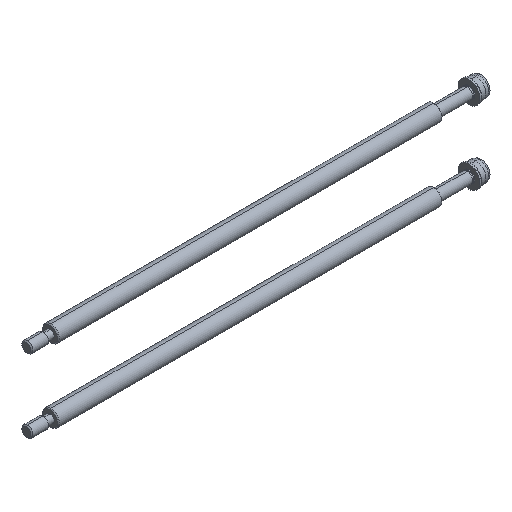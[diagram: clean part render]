
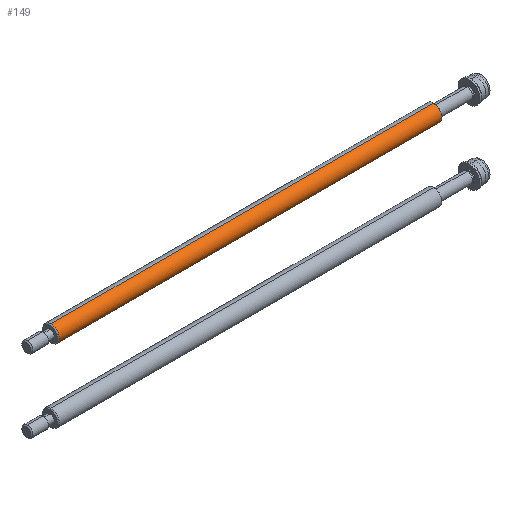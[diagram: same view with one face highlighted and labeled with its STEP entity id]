
A CAD part, isometric view. The second image highlights one B-rep face of the part: STEP entity #149.
In plain terms, the highlighted cylindrical face has radius 2.25 mm (diameter 4.5 mm), a partial arc.
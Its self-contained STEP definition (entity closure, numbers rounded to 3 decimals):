
#149=ADVANCED_FACE('',(#372),#371,.T.);
#371=CYLINDRICAL_SURFACE('',#816,2.25);
#372=FACE_OUTER_BOUND('',#817,.T.);
#813=CARTESIAN_POINT('',(0.,0.,0.));
#814=DIRECTION('',(1.,0.,0.));
#815=DIRECTION('',(0.,0.,1.));
#816=AXIS2_PLACEMENT_3D('',#813,#814,#815);
#817=EDGE_LOOP('',(#1094,#1095,#1096,#1097));
#1094=ORIENTED_EDGE('',*,*,#1243,.T.);
#1095=ORIENTED_EDGE('',*,*,#1244,.F.);
#1096=ORIENTED_EDGE('',*,*,#1239,.T.);
#1097=ORIENTED_EDGE('',*,*,#1245,.T.);
#1239=EDGE_CURVE('',#1522,#1521,#1541,.T.);
#1243=EDGE_CURVE('',#1548,#1547,#1567,.T.);
#1244=EDGE_CURVE('',#1522,#1547,#1573,.T.);
#1245=EDGE_CURVE('',#1521,#1548,#1579,.T.);
#1521=VERTEX_POINT('',#2027);
#1522=VERTEX_POINT('',#2028);
#1541=CIRCLE('',#2040,2.25);
#1547=VERTEX_POINT('',#2041);
#1548=VERTEX_POINT('',#2042);
#1567=CIRCLE('',#2054,2.25);
#1573=(BOUNDED_CURVE() B_SPLINE_CURVE(1,(#2055,#2056),.UNSPECIFIED.,.F.,.F.) B_SPLINE_CURVE_WITH_KNOTS((2,2),(0.08,0.92),.UNSPECIFIED.) CURVE() GEOMETRIC_REPRESENTATION_ITEM() RATIONAL_B_SPLINE_CURVE((1.,1.)) REPRESENTATION_ITEM('') );
#1579=(BOUNDED_CURVE() B_SPLINE_CURVE(1,(#2057,#2058),.UNSPECIFIED.,.F.,.F.) B_SPLINE_CURVE_WITH_KNOTS((2,2),(0.08,0.92),.UNSPECIFIED.) CURVE() GEOMETRIC_REPRESENTATION_ITEM() RATIONAL_B_SPLINE_CURVE((0.75,0.75)) REPRESENTATION_ITEM('') );
#2027=CARTESIAN_POINT('',(0.2,0.,-2.25));
#2028=CARTESIAN_POINT('',(0.2,0.,2.25));
#2037=CARTESIAN_POINT('',(0.2,0.,0.));
#2038=DIRECTION('',(1.,0.,0.));
#2039=DIRECTION('',(0.,0.,1.));
#2040=AXIS2_PLACEMENT_3D('',#2037,#2038,#2039);
#2041=CARTESIAN_POINT('',(104.8,0.,2.25));
#2042=CARTESIAN_POINT('',(104.8,0.,-2.25));
#2051=CARTESIAN_POINT('',(104.8,0.,0.));
#2052=DIRECTION('',(-1.,0.,0.));
#2053=DIRECTION('',(0.,0.,-1.));
#2054=AXIS2_PLACEMENT_3D('',#2051,#2052,#2053);
#2055=CARTESIAN_POINT('',(0.2,0.,2.25));
#2056=CARTESIAN_POINT('',(104.8,0.,2.25));
#2057=CARTESIAN_POINT('',(0.2,0.,-2.25));
#2058=CARTESIAN_POINT('',(104.8,0.,-2.25));
